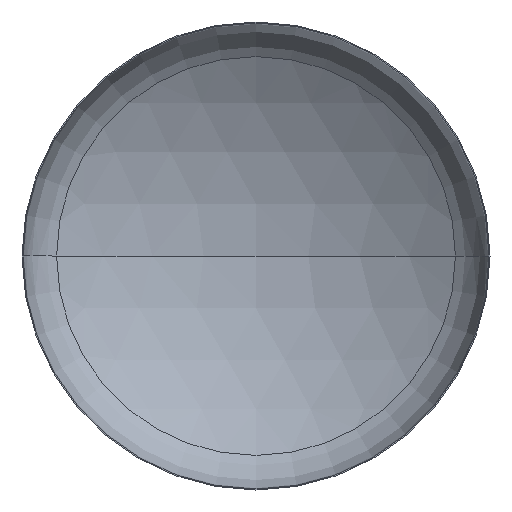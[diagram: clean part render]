
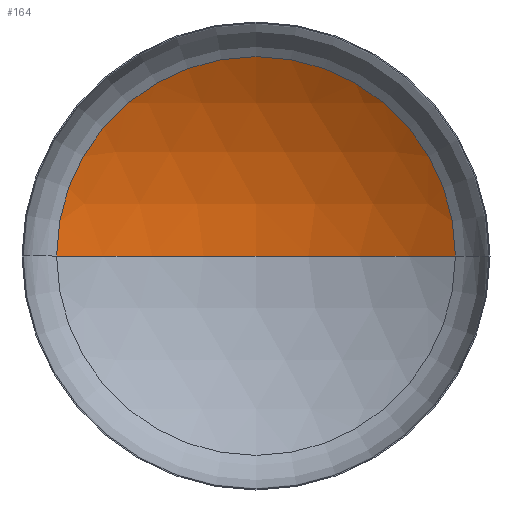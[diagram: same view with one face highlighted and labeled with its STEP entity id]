
A CAD part, front view. The second image highlights one B-rep face of the part: STEP entity #164.
In plain terms, the highlighted spherical face has radius 1120 mm.
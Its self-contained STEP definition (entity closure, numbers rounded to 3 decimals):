
#1 = DIRECTION ( 'NONE',  ( -1., 0., 0. ) ) ;
#10 = EDGE_LOOP ( 'NONE', ( #220, #108, #134 ) ) ;
#20 = VERTEX_POINT ( 'NONE', #248 ) ;
#26 = AXIS2_PLACEMENT_3D ( 'NONE', #318, #133, #170 ) ;
#28 = AXIS2_PLACEMENT_3D ( 'NONE', #176, #353, #205 ) ;
#35 = AXIS2_PLACEMENT_3D ( 'NONE', #158, #163, #166 ) ;
#65 = AXIS2_PLACEMENT_3D ( 'NONE', #174, #194, #1 ) ;
#81 = VERTEX_POINT ( 'NONE', #239 ) ;
#108 = ORIENTED_EDGE ( 'NONE', *, *, #346, .T. ) ;
#131 = VERTEX_POINT ( 'NONE', #221 ) ;
#133 = DIRECTION ( 'NONE',  ( 0., 0., 1. ) ) ;
#134 = ORIENTED_EDGE ( 'NONE', *, *, #336, .T. ) ;
#158 = CARTESIAN_POINT ( 'NONE',  ( 0., 201.969, 0. ) ) ;
#163 = DIRECTION ( 'NONE',  ( 0., -1., 0. ) ) ;
#164 = ADVANCED_FACE ( 'NONE', ( #313 ), #380, .F. ) ;
#166 = DIRECTION ( 'NONE',  ( 1., 0., 0. ) ) ;
#170 = DIRECTION ( 'NONE',  ( 1., 0., 0. ) ) ;
#174 = CARTESIAN_POINT ( 'NONE',  ( 0., -745.964, 0. ) ) ;
#176 = CARTESIAN_POINT ( 'NONE',  ( 0., -745.964, 0. ) ) ;
#194 = DIRECTION ( 'NONE',  ( 0., 0., -1. ) ) ;
#205 = DIRECTION ( 'NONE',  ( -1., 0., 0. ) ) ;
#220 = ORIENTED_EDGE ( 'NONE', *, *, #347, .F. ) ;
#221 = CARTESIAN_POINT ( 'NONE',  ( -596.508, 201.969, 0. ) ) ;
#239 = CARTESIAN_POINT ( 'NONE',  ( 596.508, 201.969, 0. ) ) ;
#248 = CARTESIAN_POINT ( 'NONE',  ( 0., 374.036, 0. ) ) ;
#275 = CIRCLE ( 'NONE', #26, 1120. ) ;
#279 = CIRCLE ( 'NONE', #28, 1120. ) ;
#313 = FACE_OUTER_BOUND ( 'NONE', #10, .T. ) ;
#318 = CARTESIAN_POINT ( 'NONE',  ( 0., -745.964, 0. ) ) ;
#336 = EDGE_CURVE ( 'NONE', #81, #131, #403, .T. ) ;
#346 = EDGE_CURVE ( 'NONE', #20, #81, #279, .T. ) ;
#347 = EDGE_CURVE ( 'NONE', #20, #131, #275, .T. ) ;
#353 = DIRECTION ( 'NONE',  ( 0., 0., -1. ) ) ;
#380 = SPHERICAL_SURFACE ( 'NONE', #65, 1120. ) ;
#403 = CIRCLE ( 'NONE', #35, 596.508 ) ;
